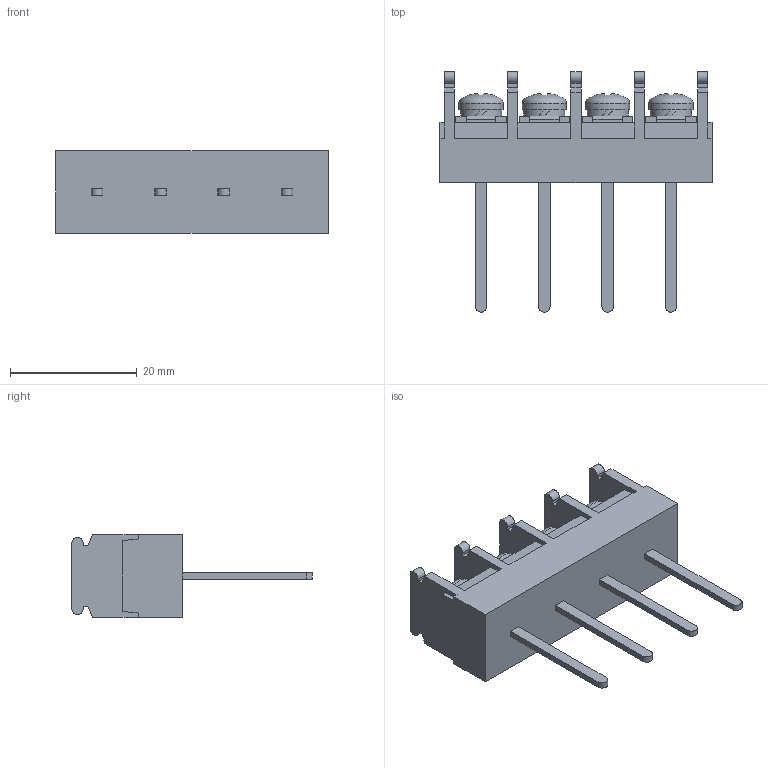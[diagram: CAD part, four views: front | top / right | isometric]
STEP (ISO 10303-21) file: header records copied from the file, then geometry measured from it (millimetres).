
FILE_DESCRIPTION(/* description */ ('Alibre Inc.'),/* implementation_level */ '2;1');
FILE_NAME(/* name */ 'export0',/* time_stamp */ '2015-10-17T19:22:34+09:00',/* author */ (''),/* organization */ (''),/* preprocessor_version */ 'ST-DEVELOPER v14',/* originating_system */ 'Alibre',/* authorisation */ '');
FILE_SCHEMA (('CONFIG_CONTROL_DESIGN'));
Length unit declared in the file: centimetre
Products named in the file (1): ID_1
Bounding box: 43 x 38 x 13 mm (x, y, z)
Volume: 6758.4 mm3; surface area: 4393.2 mm2
Topology: 1 solids, 17 shells, 656 faces, 1758 edges, 1168 vertices
Faces by surface type: plane 490, bspline 104, cylinder 34, cone 16, torus 8, sphere 4
Full cylindrical faces by diameter (mm): 4 x4, 6.5 x4, 7 x4
Entity records: 19845 total; most frequent: CARTESIAN_POINT 4599, ORIENTED_EDGE 3460, DIRECTION 2282, EDGE_CURVE 1730, VECTOR 1310, LINE 1310, VERTEX_POINT 1156, AXIS2_PLACEMENT_3D 725
